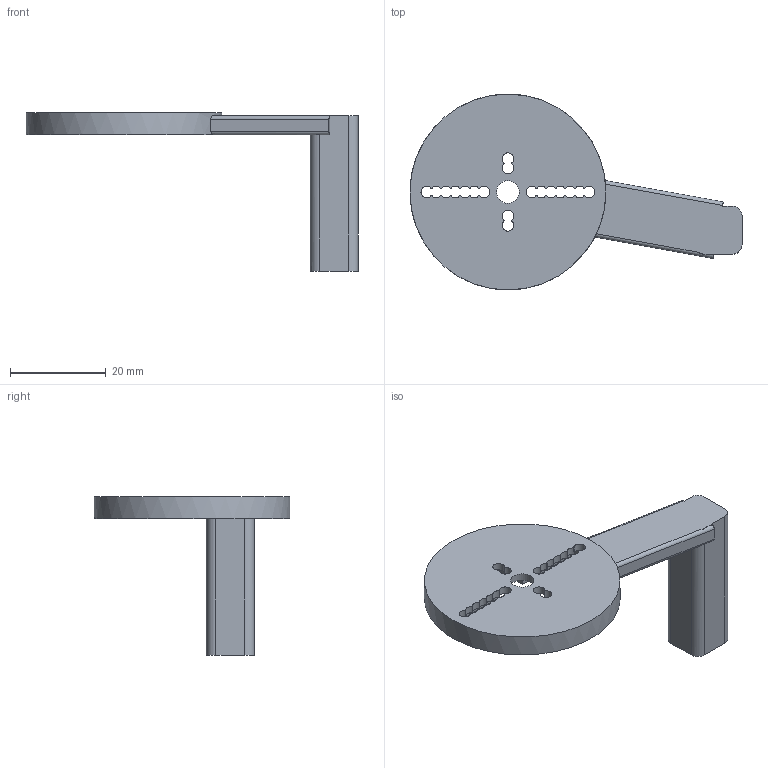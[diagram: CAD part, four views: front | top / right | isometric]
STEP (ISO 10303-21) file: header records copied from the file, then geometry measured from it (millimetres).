
FILE_DESCRIPTION(('Open CASCADE Model'),'2;1');
FILE_NAME('Open CASCADE Shape Model','2026-11-19T06:41:10',('Author'),( 'Open CASCADE'),'Open CASCADE STEP processor 8.0','Open CASCADE 8.0' ,'Unknown');
FILE_SCHEMA(('AUTOMOTIVE_DESIGN { 1 0 10303 214 1 1 1 1 }'));
Length unit declared in the file: millimetre
Products named in the file (1): Open CASCADE STEP translator 8.0 31
Bounding box: 69.5 x 41 x 33.1 mm (x, y, z)
Volume: 8647.6 mm3; surface area: 5579.8 mm2
Topology: 1 solids, 1 shells, 68 faces, 201 edges, 134 vertices
Faces by surface type: cylinder 39, plane 29
Full cylindrical faces by diameter (mm): 4.8 x1, 41 x1
Entity records: 5001 total; most frequent: CARTESIAN_POINT 1172, DIRECTION 668, ORIENTED_EDGE 402, PCURVE 402, DEFINITIONAL_REPRESENTATION 402, LINE 293, VECTOR 293, EDGE_CURVE 201
